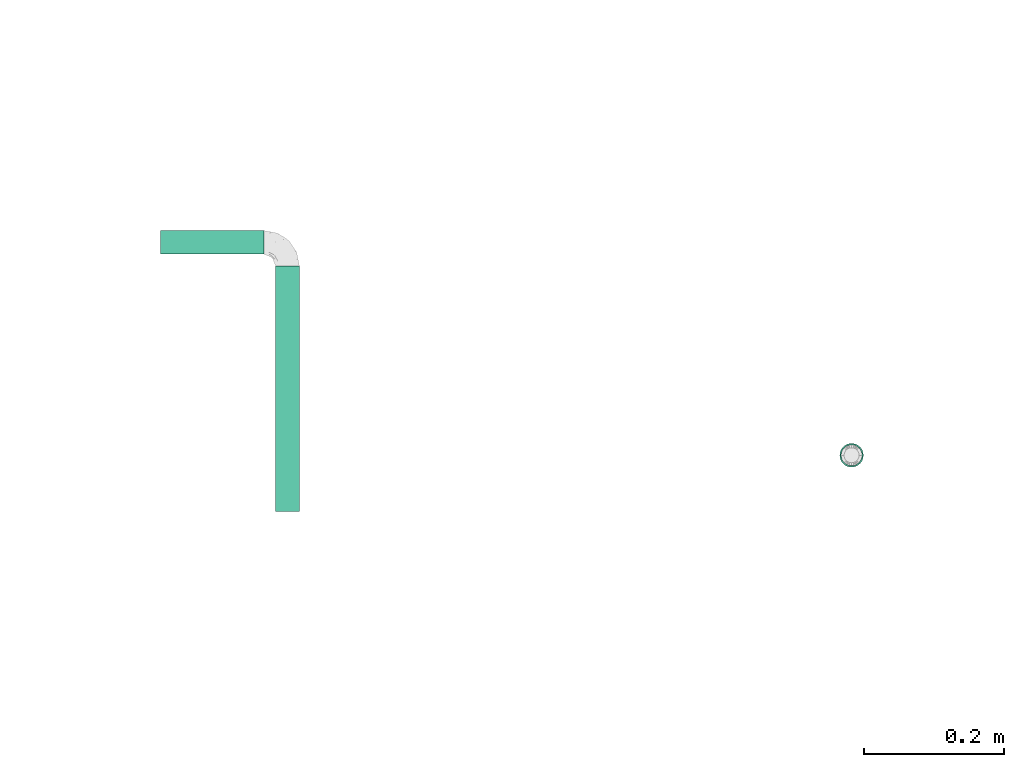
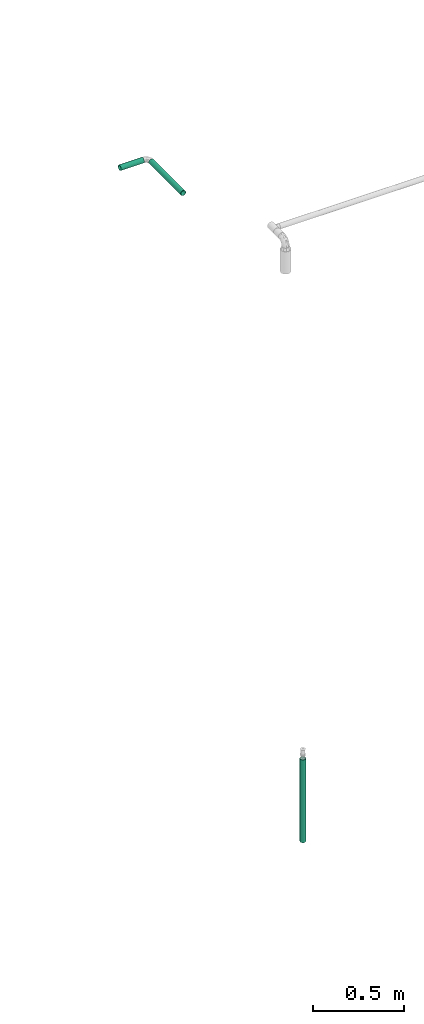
# One storey, part 10 of 63: 3 flow segments.
"""IFC2X3 building model written with IfcOpenShell, lengths in millimetres."""

from ifc_helpers import new_model, entity, si_unit, converted_unit, derived_unit, direction, frame, origin_with_axes, origin_2d_with_axis, place, context, subcontext, project, spatial, hollow_circle, extrude, source, transform, mapped, type_object, element, save


model = new_model("IFC2X3")

# Units and contexts
model_context = context("Model", 3, precision=0.01, world=frame((0.0, 4.29681676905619e-09, 0.0)), true_north=direction((4.01073788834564e-13, 1.0)))
plan_context = context("Plan", 3, precision=0.01, world=frame((0.0, 4.29681676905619e-09, 0.0)), true_north=direction((4.01073788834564e-13, 1.0)))
body_context = subcontext(model_context, "Body", "Model", "MODEL_VIEW")
ifc_project = project(units=[converted_unit("PLANEANGLEUNIT", "DEGREE", entity("IfcPositiveLengthMeasure", 0.0174532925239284), si_unit("PLANEANGLEUNIT", "RADIAN"), dimensions=[0, 0, 0, 0, 0, 0, 0]), si_unit("AREAUNIT", "SQUARE_METRE"), si_unit("LENGTHUNIT", "METRE", prefix="MILLI"), si_unit("MASSUNIT", "GRAM", prefix="KILO"), si_unit("POWERUNIT", "WATT"), si_unit("PRESSUREUNIT", "PASCAL", prefix="KILO"), si_unit("FORCEUNIT", "NEWTON", prefix="KILO"), si_unit("ELECTRICVOLTAGEUNIT", "VOLT"), si_unit("ELECTRICCURRENTUNIT", "AMPERE"), si_unit("THERMODYNAMICTEMPERATUREUNIT", "DEGREE_CELSIUS"), si_unit("TIMEUNIT", "SECOND"), si_unit("VOLUMEUNIT", "CUBIC_METRE"), derived_unit("LINEARVELOCITYUNIT", [(si_unit("LENGTHUNIT", "METRE"), 1), (si_unit("TIMEUNIT", "SECOND"), -1)]), derived_unit("VOLUMETRICFLOWRATEUNIT", [(si_unit("VOLUMEUNIT", "CUBIC_METRE"), 1), (si_unit("TIMEUNIT", "SECOND"), -1)]), derived_unit("THERMALTRANSMITTANCEUNIT", [(si_unit("POWERUNIT", "WATT"), 1), (si_unit("THERMODYNAMICTEMPERATUREUNIT", "KELVIN"), -1), (si_unit("AREAUNIT", "SQUARE_METRE"), -1)]), derived_unit("SOUNDPRESSUREUNIT", [(si_unit("PRESSUREUNIT", "PASCAL"), 1)])], contexts=[model_context, plan_context])

# Site, building, storey
site_placement = place(None, frame((0.0, -4.29681676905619e-09, 0.0), z_axis=(0.0, 0.0, 1.0), x_axis=(1.0, 0.0, 0.0)))
site = spatial("IfcSite", under=ifc_project, at=site_placement, CompositionType="ELEMENT")
building_placement = place(site_placement, frame((0.0, 4.29681676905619e-09, 0.0), z_axis=(0.0, 0.0, 1.0), x_axis=(1.0, 0.0, 0.0)))
building = spatial("IfcBuilding", under=site, at=building_placement, Name="mc-building", CompositionType="ELEMENT")
storey_placement = place(building_placement, frame((0.0, 0.0, 207370.0), z_axis=(0.0, 0.0, 1.0), x_axis=(1.0, 0.0, 0.0)))
storey = spatial("IfcBuildingStorey", under=building, at=storey_placement, Name="Nivå E", CompositionType="ELEMENT", Elevation=207370.0)

# Flow segments
pipe_segment_type = type_object("IfcPipeSegmentType", Name="Stålrør normaltykke", PredefinedType="RIGIDSEGMENT")
shared_shape_1 = source(origin_with_axes(), body_context, "Body", "SweptSolid", [
    extrude(hollow_circle(Radius=16.9, WallThickness=2.0, at=origin_2d_with_axis()), frame((0.0, 0.0, 0.0), z_axis=(1.0, 0.0, 0.0), x_axis=(0.0, 1.0, 0.0)), (0.0, 0.0, 1.0), 554.6),
])
flow_segment_1_placement = place(storey_placement, frame((717018.09202, 441297.3941, 2463.79999999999), z_axis=(0.0, -1.0, 0.0), x_axis=(0.0, 0.0, 1.0)))
element("IfcFlowSegment", 1, at=flow_segment_1_placement, inside=storey, type_object=pipe_segment_type, Name="Stålrør normaltykke", context=body_context, shape_type="MappedRepresentation", body=[
    mapped(shared_shape_1, transform((0.0, 0.0, 0.0), scale=1.0)),
])
shared_shape_2 = source(origin_with_axes(), body_context, "Body", "SweptSolid", [
    extrude(hollow_circle(Radius=16.9, WallThickness=2.0, at=origin_2d_with_axis()), frame((0.0, 0.0, 0.0), z_axis=(1.0, 0.0, 0.0), x_axis=(0.0, 1.0, 0.0)), (0.0, 0.0, 1.0), 349.6),
])
flow_segment_2_placement = place(storey_placement, frame((716214.70896, 441217.25685, 7130.0), z_axis=(0.0, 0.0, 1.0), x_axis=(0.0, 1.0, 0.0)))
element("IfcFlowSegment", 2, at=flow_segment_2_placement, inside=storey, type_object=pipe_segment_type, Name="Stålrør normaltykke", context=body_context, shape_type="MappedRepresentation", body=[
    mapped(shared_shape_2, transform((0.0, 0.0, 0.0), scale=1.0)),
])
shared_shape_3 = source(origin_with_axes(), body_context, "Body", "SweptSolid", [
    extrude(hollow_circle(Radius=16.9, WallThickness=2.0, at=origin_2d_with_axis()), frame((0.0, 0.0, 0.0), z_axis=(1.0, 0.0, 0.0), x_axis=(0.0, 1.0, 0.0)), (0.0, 0.0, 1.0), 147.1),
])
flow_segment_3_placement = place(storey_placement, frame((716033.8, 441600.7, 7130.0), z_axis=(0.0, 0.0, 1.0), x_axis=(1.0, 0.0, 0.0)))
element("IfcFlowSegment", 3, at=flow_segment_3_placement, inside=storey, type_object=pipe_segment_type, Name="Stålrør normaltykke", context=body_context, shape_type="MappedRepresentation", body=[
    mapped(shared_shape_3, transform((0.0, 0.0, 0.0), scale=1.0)),
])

save(model, "model.ifc")
